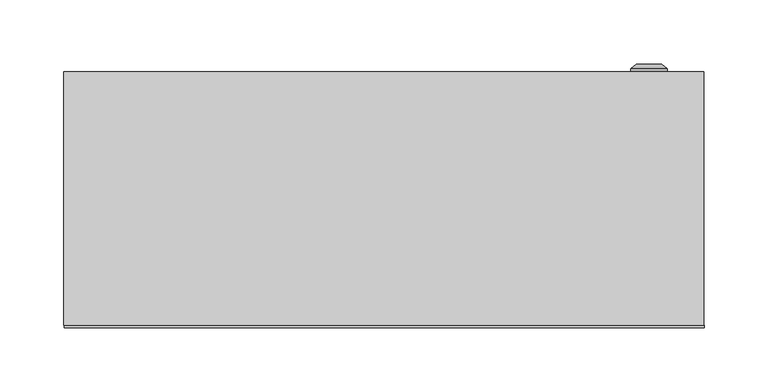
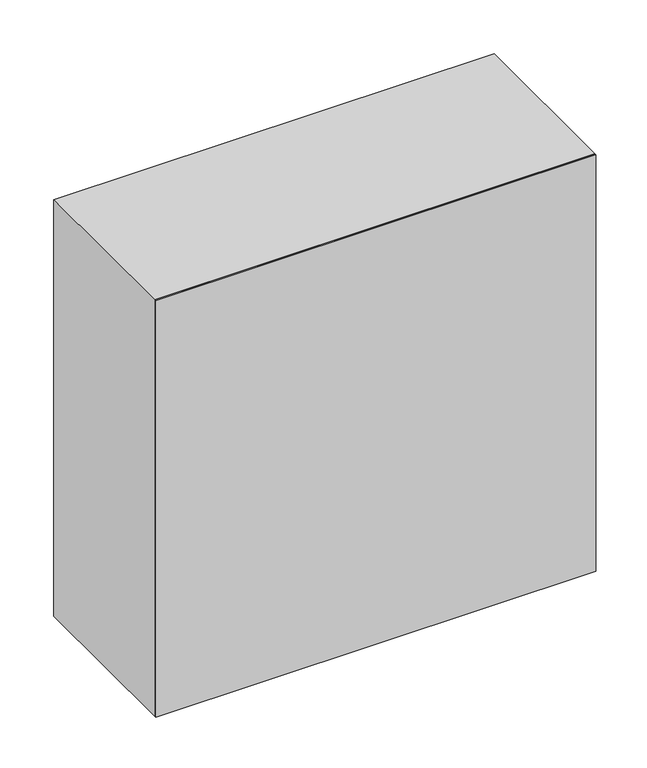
"""IFC4 building model written with IfcOpenShell, lengths in millimetres: proxy geometry, ЩМП : ЩМП-5.5.2_500х500х200."""

from ifc_helpers import new_model, si_unit, frame, origin, origin_with_axes, place, context, project, spatial, polyline, circle_curve, outline, extrude, source, transform, mapped, element, save
from ifc_brep_helpers import plane_surface, cylinder_surface, revolved_surface, advanced_brep


def electrical_equipment_c5bccf6a(model_context):
    return source(origin(), model_context, "Body", "SolidModel", [
        advanced_brep(
        [(192.669873, 200.0, 246.0), (221.330127, 200.0, 246.0), (207.0, 200.0, 246.0), (192.669873, 202.366592, 246.0), (221.330127, 202.366592, 246.0), (197.0, 206.0, 246.0), (217.0, 206.0, 246.0), (205.1080471, 206.0, 246.0), (208.8919529, 206.0, 246.0), (205.1080471, 204.9822294, 246.0), (208.8919529, 204.9822294, 246.0), (207.0, 204.9822294, 246.0)],
        [
            (0, 1, circle_curve(frame((207.0, 200.0, 246.0), z_axis=(0.0, -1.0, 0.0), x_axis=(1.0, 0.0, 0.0)), 14.330127)),
            (1, 2),
            (2, 0),
            (1, 0, circle_curve(frame((207.0, 200.0, 246.0), z_axis=(0.0, -1.0, 0.0), x_axis=(1.0, 0.0, 0.0)), 14.330127)),
            (3, 4, circle_curve(frame((207.0, 202.366592, 246.0), z_axis=(0.0, -1.0, 0.0), x_axis=(1.0, 0.0, 0.0)), 14.330127)),
            (4, 1),
            (0, 3),
            (4, 3, circle_curve(frame((207.0, 202.366592, 246.0), z_axis=(0.0, -1.0, 0.0), x_axis=(1.0, 0.0, 0.0)), 14.330127)),
            (5, 6, circle_curve(frame((207.0, 206.0, 246.0), z_axis=(0.0, -1.0, 0.0), x_axis=(1.0, 0.0, 0.0)), 10.0)),
            (6, 4),
            (3, 5),
            (6, 5, circle_curve(frame((207.0, 206.0, 246.0), z_axis=(0.0, -1.0, 0.0), x_axis=(1.0, 0.0, 0.0)), 10.0)),
            (7, 8, circle_curve(frame((207.0, 206.0, 246.0), z_axis=(0.0, -1.0, 0.0), x_axis=(1.0, 0.0, 0.0)), 1.8919529)),
            (8, 6),
            (5, 7),
            (8, 7, circle_curve(frame((207.0, 206.0, 246.0), z_axis=(0.0, -1.0, 0.0), x_axis=(1.0, 0.0, 0.0)), 1.8919529)),
            (9, 10, circle_curve(frame((207.0, 204.9822294, 246.0), z_axis=(0.0, -1.0, 0.0), x_axis=(1.0, 0.0, 0.0)), 1.8919529)),
            (10, 8),
            (7, 9),
            (10, 9, circle_curve(frame((207.0, 204.9822294, 246.0), z_axis=(0.0, -1.0, 0.0), x_axis=(1.0, 0.0, 0.0)), 1.8919529)),
            (11, 10),
            (9, 11),
        ],
        [
            plane_surface(frame((207.0, 200.0, 246.0), z_axis=(0.0, -1.0, 0.0), x_axis=(1.0, 0.0, 0.0))),
            cylinder_surface(frame((207.0, 213.1348851, 246.0), z_axis=(0.0, 1.0, 0.0), x_axis=(1.0, 0.0, 0.0)), 14.330127),
            revolved_surface(polyline([(221.330127, 202.366592, 246.0), (217.0, 206.0, 246.0)]), (207.0, 213.1348851, 246.0), (0.0, 1.0, 0.0)),
            plane_surface(frame((207.0, 206.0, 246.0), z_axis=(0.0, 1.0, 0.0), x_axis=(1.0, 0.0, 0.0))),
            revolved_surface(polyline([(208.8919529, 206.0, 246.0), (208.8919529, 204.9822294, 246.0)]), (207.0, 213.1348851, 246.0), (0.0, 1.0, 0.0)),
            plane_surface(frame((207.0, 204.9822294, 246.0), z_axis=(0.0, 1.0, 0.0), x_axis=(1.0, 0.0, 0.0))),
        ],
        [
            (0, [[1, 2, 3]]),
            (0, [[4, -3, -2]]),
            (1, [[5, 6, -1, 7]]),
            (1, [[8, -7, -4, -6]]),
            (2, [[9, 10, -5, 11]]),
            (2, [[12, -11, -8, -10]]),
            (3, [[13, 14, -9, 15]]),
            (3, [[16, -15, -12, -14]]),
            (4, [[17, 18, -13, 19]]),
            (4, [[20, -19, -16, -18]]),
            (5, [[21, -17, 22]]),
            (5, [[-22, -20, -21]]),
        ],
    ),
        extrude(outline(polyline([(232.5, 175.0), (-232.5, 175.0), (-232.5, 200.0), (232.5, 200.0), (232.5, 175.0)])), frame((0.0, 0.0, 16.5), z_axis=(0.0, 0.0, 1.0), x_axis=(1.0, 0.0, 0.0)), (0.0, 0.0, 1.0), 467.0),
        extrude(outline(polyline([(500.0, -250.0033905), (0.0, -250.0033905), (0.0, 249.9966095), (500.0, 249.9966095), (500.0, -250.0033905)]), holes=[polyline([(465.0, -217.0033905), (465.0, 216.9966095), (27.0, 216.9966095), (27.0, -217.0033905), (465.0, -217.0033905)])]), frame((0.0, 2.0, 0.0), z_axis=(0.0, 1.0, 0.0), x_axis=(0.0, 0.0, 1.0)), (0.0, 0.0, 1.0), 198.0),
        extrude(outline(polyline([(250.0, 0.0), (-250.0, 0.0), (-250.0, 2.0), (250.0, 2.0), (250.0, 0.0)])), origin_with_axes(), (0.0, 0.0, 1.0), 500.0),
    ])


if __name__ == "__main__":
    model = new_model("IFC4")
    model_context = context("Model", 3, world=origin())
    ifc_project = project(units=[si_unit("LENGTHUNIT", "METRE", prefix="MILLI")], contexts=[model_context])
    site = spatial("IfcSite", under=ifc_project)
    building = spatial("IfcBuilding", under=site)
    placement = place(None, origin())
    electrical_equipment_shape = electrical_equipment_c5bccf6a(model_context)
    element("IfcBuildingElementProxy", 1, Name="ЩМП : ЩМП-5.5.2_500х500х200", ObjectType="ЩМП : ЩМП-5.5.2_500х500х200", at=placement, inside=building, context=model_context, shape_type="MappedRepresentation", body=[
        mapped(electrical_equipment_shape, transform((0.0, 0.0, 0.0), x_axis=(1.0, 0.0, 0.0), y_axis=(0.0, 1.0, 0.0), z_axis=(0.0, 0.0, 1.0))),
    ])
    save(model, "model.ifc")
